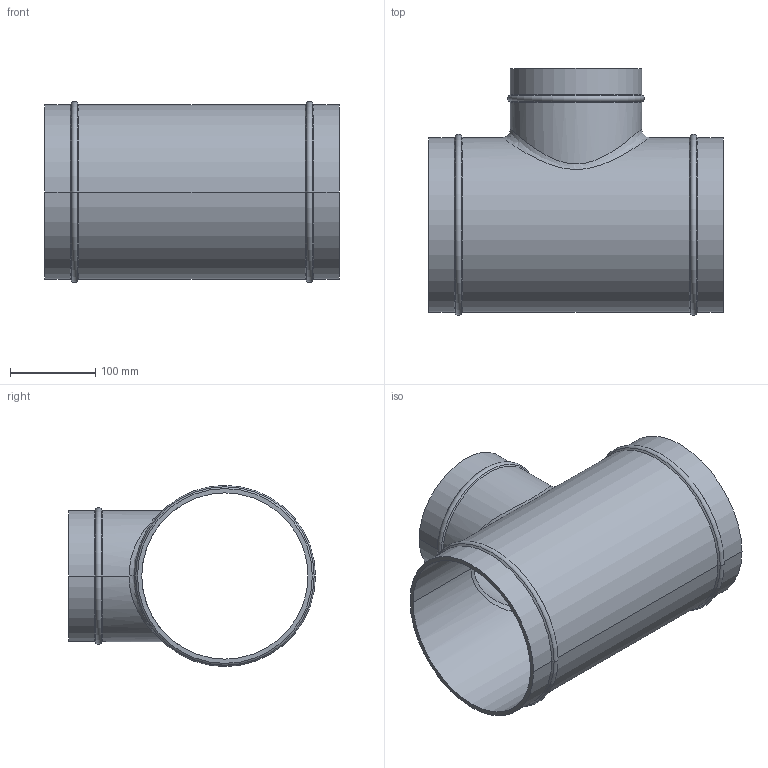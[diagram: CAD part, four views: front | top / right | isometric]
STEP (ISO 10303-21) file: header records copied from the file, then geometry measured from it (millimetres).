
FILE_DESCRIPTION((''),'2;1');
FILE_NAME('2012A90700','2017-05-10T',('Administrator'),(''),'PRO/ENGINEER BY PARAMETRIC TECHNOLOGY CORPORATION, 2009360','PRO/ENGINEER BY PARAMETRIC TECHNOLOGY CORPORATION, 2009360','');
FILE_SCHEMA(('AUTOMOTIVE_DESIGN_CC2 { 1 2 10303 214 -1 1 5 2 }'));
Length unit declared in the file: millimetre
Products named in the file (1): 2012A90700
Bounding box: 345 x 288.99 x 211.97 mm (x, y, z)
Volume: 1264046.1 mm3; surface area: 500472.2 mm2
Topology: 1 solids, 1 shells, 37 faces, 79 edges, 44 vertices
Faces by surface type: cylinder 14, cone 12, torus 6, plane 3, bspline 2
Entity records: 1646 total; most frequent: CARTESIAN_POINT 563, DIRECTION 186, ORIENTED_EDGE 158, PRESENTATION_STYLE_ASSIGNMENT 80, STYLED_ITEM 80, AXIS2_PLACEMENT_3D 79, CURVE_STYLE 79, EDGE_CURVE 79
